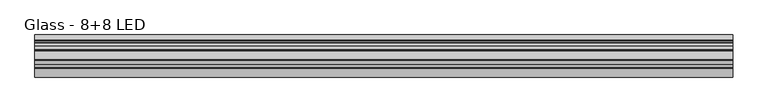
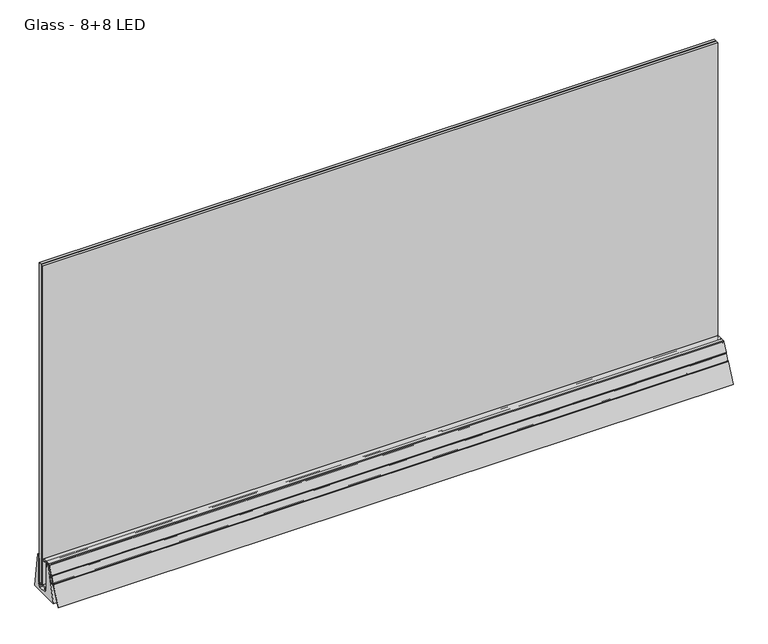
"""IFC4 building model written with IfcOpenShell, lengths in millimetres: proxy geometry, Construction_Slope-Glazing_Faraone_Linea-3-Mini : Glass - 8+8 LED."""

from ifc_helpers import new_model, si_unit, point, frame, frame_2d, origin, place, context, project, spatial, polyline, circle_curve, trimmed, segment, composite_curve, outline, extrude, source, transform, mapped, element, save


def glass_8_8_led_c3ab43e4(model_context):
    return source(origin(), model_context, "Body", "SweptSolid", [
        extrude(outline(composite_curve([segment(polyline([(-46.9290048, 60.8452155), (-38.3593245, 79.9270657)]), True, "CONTINUOUS"), segment(trimmed(circle_curve(frame_2d((-37.8682728, 79.7065338)), 0.5382992), [point((-38.3593245, 79.9270657))], [point((-37.6709635, 80.2073682))], False, "CARTESIAN"), True, "CONTINUOUS"), segment(polyline([(-37.6709635, 80.2073682), (-36.7665623, 79.8510693), (-37.6727374, 77.5509054), (-32.6446792, 75.2927988), (-32.1720317, 74.6078572)]), True, "CONTINUOUS"), segment(trimmed(circle_curve(frame_2d((-32.4236337, 74.434238)), 0.3056914), [point((-32.1720317, 74.6078572))], [point((-32.5488701, 74.1553777))], False, "CARTESIAN"), True, "CONTINUOUS"), segment(polyline([(-32.5488701, 74.1553777), (-38.1727749, 76.6810796), (-44.3603464, 62.9033997), (-38.7233311, 60.3718098)]), True, "CONTINUOUS"), segment(trimmed(circle_curve(frame_2d((-38.8469232, 60.096611)), 0.3016776), [point((-38.7233311, 60.3718098))], [point((-38.810041, 59.7971964))], False, "CARTESIAN"), True, "CONTINUOUS"), segment(polyline([(-38.810041, 59.7971964), (-39.6502528, 59.6936982), (-44.7693474, 61.9926894), (-45.77307, 59.7577305), (-46.6684512, 60.1598472)]), True, "CONTINUOUS"), segment(trimmed(circle_curve(frame_2d((-46.4560439, 60.6328082)), 0.5184678), [point((-46.6684512, 60.1598472))], [point((-46.9290048, 60.8452155))], False, "CARTESIAN"), True, "CONTINUOUS")], self_intersect=False)), frame((-1000.0, 0.0, 0.0), z_axis=(1.0, 0.0, 0.0), x_axis=(0.0, 1.0, 0.0)), (0.0, 0.0, 1.0), 2000.0),
        extrude(outline(polyline([(0.0, -6.2782462), (0.0, 0.0), (2000.0, 0.0), (2000.0, -6.2782462), (0.0, -6.2782462)])), frame((1000.0, -41.1019917, 61.8367951), z_axis=(0.0, 0.23275020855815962, 0.9725365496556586), x_axis=(-1.0, 0.0, 0.0)), (0.0, 0.0, 1.0), 13.1743362),
        extrude(outline(composite_curve([segment(trimmed(circle_curve(frame_2d((2.3741707, 109.8933639)), 0.5), [point((2.3741707, 110.3933639))], [point((2.8741707, 109.8933639))], False, "CARTESIAN"), True, "CONTINUOUS"), segment(polyline([(2.8741707, 109.8933639), (2.8741707, 107.7847909), (2.080513, 107.7847909), (2.080513, 109.0323883), (1.1824202, 109.0323883)]), True, "CONTINUOUS"), segment(trimmed(circle_curve(frame_2d((1.1824202, 108.5241255)), 0.5082627), [point((1.1824202, 109.0323883))], [point((0.6741575, 108.5241255))], True, "CARTESIAN"), True, "CONTINUOUS"), segment(polyline([(0.6741575, 108.5241255), (0.6741575, 104.040651)]), True, "CONTINUOUS"), segment(trimmed(circle_curve(frame_2d((1.1824202, 104.040651)), 0.5082627), [point((0.6741575, 104.040651))], [point((1.1824202, 103.5323883))], True, "CARTESIAN"), True, "CONTINUOUS"), segment(polyline([(1.1824202, 103.5323883), (2.080513, 103.5323883), (2.080513, 104.7799856), (2.8741707, 104.7799856), (2.8741707, 102.8323883)]), True, "CONTINUOUS"), segment(trimmed(circle_curve(frame_2d((2.3741707, 102.8323883)), 0.5), [point((2.8741707, 102.8323883))], [point((2.3741707, 102.3323883))], False, "CARTESIAN"), True, "CONTINUOUS"), segment(polyline([(2.3741707, 102.3323883), (-0.0258423, 102.3323883)]), True, "CONTINUOUS"), segment(trimmed(circle_curve(frame_2d((-0.0258423, 102.8323885)), 0.5000003), [point((-0.0258423, 102.3323883))], [point((-0.5258425, 102.8323885))], False, "CARTESIAN"), True, "CONTINUOUS"), segment(polyline([(-0.5258425, 102.8323885), (-0.5258425, 108.0933639)]), True, "CONTINUOUS"), segment(trimmed(circle_curve(frame_2d((-1.0258425, 108.0933639)), 0.5), [point((-0.5258425, 108.0933639))], [point((-1.0258425, 108.5933639))], True, "CARTESIAN"), True, "CONTINUOUS"), segment(polyline([(-1.0258425, 108.5933639), (-11.5017337, 108.5933639), (-11.5017337, 95.1228578), (-13.5888351, 95.1228578), (-13.5888351, 100.1818111), (-12.7017337, 100.1818111), (-12.7017337, 107.7933639)]), True, "CONTINUOUS"), segment(trimmed(circle_curve(frame_2d((-12.7017337, 108.1933639)), 0.4), [point((-12.7017337, 107.7933639))], [point((-12.7017337, 108.5933639))], True, "CARTESIAN"), True, "CONTINUOUS"), segment(polyline([(-12.7017337, 108.5933639), (-22.9267875, 108.5933639)]), True, "CONTINUOUS"), segment(trimmed(circle_curve(frame_2d((-22.9267875, 107.9933639)), 0.6), [point((-22.9267875, 108.5933639))], [point((-23.5267875, 107.9933639))], True, "CARTESIAN"), True, "CONTINUOUS"), segment(polyline([(-23.5267875, 107.9933639), (-23.5267875, 100.1818111), (-22.6462885, 100.1818111), (-22.6462885, 95.1228578), (-24.7267875, 95.1236531), (-24.7267875, 104.449094)]), True, "CONTINUOUS"), segment(trimmed(circle_curve(frame_2d((-25.0658439, 104.449094)), 0.3390564), [point((-24.7267875, 104.449094))], [point((-25.3755873, 104.5870006))], True, "CARTESIAN"), True, "CONTINUOUS"), segment(polyline([(-25.3755873, 104.5870006), (-35.6652701, 81.4759946), (-34.798705, 81.1346016)]), True, "CONTINUOUS"), segment(trimmed(circle_curve(frame_2d((-34.9813632, 80.6709564)), 0.4983281), [point((-34.798705, 81.1346016))], [point((-34.517718, 80.4882982))], False, "CARTESIAN"), True, "CONTINUOUS"), segment(polyline([(-34.517718, 80.4882982), (-35.0206184, 79.2117754), (-29.6616744, 77.1005596)]), True, "CONTINUOUS"), segment(trimmed(circle_curve(frame_2d((-29.9165301, 76.453654)), 0.6952973), [point((-29.6616744, 77.1005596))], [point((-29.240328, 76.2918234))], False, "CARTESIAN"), True, "CONTINUOUS"), segment(polyline([(-29.240328, 76.2918234), (-34.2229718, 55.4720647)]), True, "CONTINUOUS"), segment(trimmed(circle_curve(frame_2d((-34.8868631, 55.6309491)), 0.6826389), [point((-34.2229718, 55.4720647))], [point((-35.1370789, 54.9958208))], False, "CARTESIAN"), True, "CONTINUOUS"), segment(polyline([(-35.1370789, 54.9958208), (-44.4107622, 58.6492918), (-44.7767924, 57.7201895)]), True, "CONTINUOUS"), segment(trimmed(circle_curve(frame_2d((-45.2404376, 57.9028477)), 0.4983281), [point((-44.7767924, 57.7201895))], [point((-45.4230958, 57.4392025))], False, "CARTESIAN"), True, "CONTINUOUS"), segment(polyline([(-45.4230958, 57.4392025), (-46.3257528, 57.7948143), (-71.4516626, 1.8477045), (-73.0936732, 2.5851333), (-47.5416784, 59.4809937)]), True, "CONTINUOUS"), segment(trimmed(circle_curve(frame_2d((-47.0349029, 59.2534002)), 0.5555359), [point((-47.5416784, 59.4809937))], [point((-46.8312756, 59.7702717))], False, "CARTESIAN"), True, "CONTINUOUS"), segment(polyline([(-46.8312756, 59.7702717), (-45.9273652, 59.4141661), (-45.1706037, 61.0992242), (-42.7102452, 60.1299385), (-41.4568708, 60.4042845), (-40.7354301, 60.0678711), (-41.0630322, 59.2363115), (-36.304654, 57.3616954)]), True, "CONTINUOUS"), segment(trimmed(circle_curve(frame_2d((-36.1228145, 57.8232623)), 0.4960943), [point((-36.304654, 57.3616954))], [point((-35.6403447, 57.7077962))], True, "CARTESIAN"), True, "CONTINUOUS"), segment(polyline([(-35.6403447, 57.7077962), (-31.4182815, 75.3495023)]), True, "CONTINUOUS"), segment(trimmed(circle_curve(frame_2d((-31.9531937, 75.477519)), 0.5500176), [point((-31.4182815, 75.3495023))], [point((-31.7515891, 75.9892562))], True, "CARTESIAN"), True, "CONTINUOUS"), segment(polyline([(-31.7515891, 75.9892562), (-33.3679221, 76.6260286), (-33.6673442, 75.8659992), (-34.3945155, 76.1524764), (-35.4407993, 77.6664103), (-37.334782, 78.4125659), (-36.5781858, 80.3330502), (-37.4372322, 80.6714811)]), True, "CONTINUOUS"), segment(trimmed(circle_curve(frame_2d((-37.2494845, 81.148045)), 0.5122132), [point((-37.4372322, 80.6714811))], [point((-37.7167398, 81.3578898))], False, "CARTESIAN"), True, "CONTINUOUS"), segment(polyline([(-37.7167398, 81.3578898), (-25.4474514, 108.6775461)]), True, "CONTINUOUS"), segment(trimmed(circle_curve(frame_2d((-22.795967, 107.4867615)), 2.9066025), [point((-25.4474514, 108.6775461))], [point((-22.795967, 110.3933639))], False, "CARTESIAN"), True, "CONTINUOUS"), segment(polyline([(-22.795967, 110.3933639), (2.3741707, 110.3933639)]), True, "CONTINUOUS")], self_intersect=False)), frame((-1000.0, 0.0, 0.0), z_axis=(1.0, 0.0, 0.0), x_axis=(0.0, 1.0, 0.0)), (0.0, 0.0, 1.0), 2000.0),
        extrude(outline(polyline([(1000.0, 23.8514845), (1000.0, 15.9014845), (-1000.0, 15.9014845), (-1000.0, 23.8514845), (1000.0, 23.8514845)])), frame((0.0, 0.0, 26.5097848), z_axis=(0.0, 0.0, 1.0), x_axis=(1.0, 0.0, 0.0)), (0.0, 0.0, 1.0), 1000.0),
        extrude(outline(polyline([(1000.0, 14.3014845), (1000.0, 6.3514845), (-1000.0, 6.3514845), (-1000.0, 14.3014845), (1000.0, 14.3014845)])), frame((0.0, 0.0, 26.5097848), z_axis=(0.0, 0.0, 1.0), x_axis=(1.0, 0.0, 0.0)), (0.0, 0.0, 1.0), 1000.0),
        extrude(outline(polyline([(21.0027951, 21.0097848), (22.0027951, 21.0097848), (21.0027951, 17.5097848), (18.5027951, 17.5097848), (18.5027951, 23.5097848), (-3.4544609, 23.5097848), (-3.4544609, 17.5097848), (-5.9544609, 17.5097848), (-6.9542334, 21.0097848), (-5.9544609, 21.0097848), (-5.9544609, 23.5100571), (-8.9999952, 23.5100571), (-8.9999952, 26.5097848), (23.8514845, 26.5097848), (23.8514845, 98.7598945), (26.4955126, 98.7598945), (26.4955126, 23.5097848), (21.0027951, 23.5097848), (21.0027951, 21.0097848)])), frame((-1000.0, 0.0, 0.0), z_axis=(1.0, 0.0, 0.0), x_axis=(0.0, 1.0, 0.0)), (0.0, 0.0, 1.0), 2000.0),
        extrude(outline(composite_curve([segment(polyline([(-47.4987038, 0.0), (-24.7300487, 95.1378278), (-22.4744479, 95.1378278), (-22.4744479, 103.0050058), (-13.7606757, 103.0050058), (-13.7606757, 95.1380316), (-11.4999492, 95.1380316), (-11.4999492, 23.5100853), (-6.5000411, 23.5100853), (-6.5000411, 21.5106384), (-11.5002842, 21.5106384), (-6.3392177, 10.5100582), (21.4008273, 10.5098183), (26.8963028, 21.5099451), (21.4999589, 21.5099451), (21.4999589, 23.5097848), (26.4996909, 23.5097848), (26.4947523, 109.9810078), (30.5938434, 109.9810078)]), True, "CONTINUOUS"), segment(trimmed(circle_curve(frame_2d((30.5938434, 109.0417285)), 0.9392792), [point((30.5938434, 109.9810078))], [point((31.5233799, 109.1766636))], False, "CARTESIAN"), True, "CONTINUOUS"), segment(polyline([(31.5233799, 109.1766636), (47.3718822, 0.0), (-47.4987038, 0.0)]), True, "CONTINUOUS")], self_intersect=False)), frame((-1000.0, 0.0, 0.0), z_axis=(1.0, 0.0, 0.0), x_axis=(0.0, 1.0, 0.0)), (0.0, 0.0, 1.0), 2000.0),
    ])


if __name__ == "__main__":
    model = new_model("IFC4")
    model_context = context("Model", 3, world=origin())
    ifc_project = project(units=[si_unit("LENGTHUNIT", "METRE", prefix="MILLI")], contexts=[model_context])
    site = spatial("IfcSite", under=ifc_project)
    building = spatial("IfcBuilding", under=site)
    placement = place(None, origin())
    glass_8_8_led_shape = glass_8_8_led_c3ab43e4(model_context)
    element("IfcBuildingElementProxy", 1, Name="Construction_Slope-Glazing_Faraone_Linea-3-Mini : Glass - 8+8 LED", ObjectType="Construction_Slope-Glazing_Faraone_Linea-3-Mini : Glass - 8+8 LED", at=placement, inside=building, context=model_context, shape_type="MappedRepresentation", body=[
        mapped(glass_8_8_led_shape, transform((0.0, 0.0, 0.0), x_axis=(1.0, 0.0, 0.0), y_axis=(0.0, 1.0, 0.0), z_axis=(0.0, 0.0, 1.0))),
    ])
    save(model, "model.ifc")
